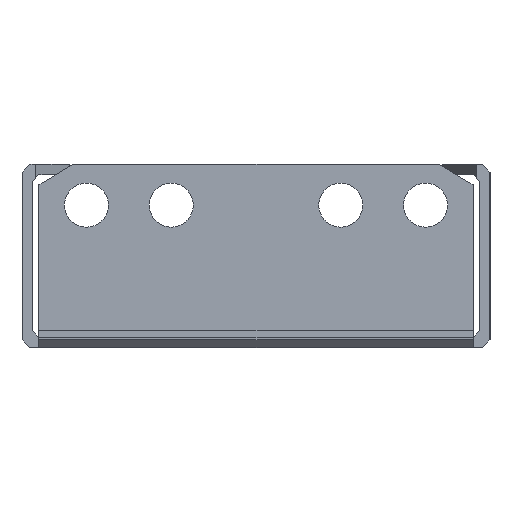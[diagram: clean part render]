
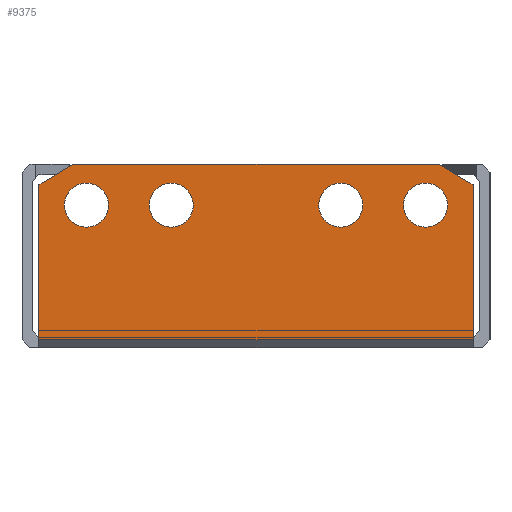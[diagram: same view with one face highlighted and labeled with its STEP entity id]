
A CAD part, left-side view. The second image highlights one B-rep face of the part: STEP entity #9375.
In plain terms, the highlighted planar face has unit normal (-1, 0, 0).
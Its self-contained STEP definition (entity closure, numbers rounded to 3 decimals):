
#407 = CARTESIAN_POINT ( 'NONE',  ( -353., -25., 19.5 ) ) ;
#898 = FACE_BOUND ( 'NONE', #11713, .T. ) ;
#1119 = FACE_BOUND ( 'NONE', #17989, .T. ) ;
#2275 = AXIS2_PLACEMENT_3D ( 'NONE', #24585, #34508, #21715 ) ;
#2515 = ORIENTED_EDGE ( 'NONE', *, *, #23099, .F. ) ;
#2850 = DIRECTION ( 'NONE',  ( -1., 0., 0. ) ) ;
#2935 = CARTESIAN_POINT ( 'NONE',  ( -353., 12.5, 19.5 ) ) ;
#3041 = AXIS2_PLACEMENT_3D ( 'NONE', #20262, #2850, #19590 ) ;
#3583 = LINE ( 'NONE', #30454, #37229 ) ;
#3789 = CIRCLE ( 'NONE', #14333, 3.25 ) ;
#4279 = VERTEX_POINT ( 'NONE', #26019 ) ;
#4734 = CARTESIAN_POINT ( 'NONE',  ( -353., 32., 0. ) ) ;
#5148 = AXIS2_PLACEMENT_3D ( 'NONE', #33051, #13241, #9492 ) ;
#5357 = CARTESIAN_POINT ( 'NONE',  ( -353., 25., 19.5 ) ) ;
#5899 = ORIENTED_EDGE ( 'NONE', *, *, #27916, .T. ) ;
#6363 = DIRECTION ( 'NONE',  ( 0., 0., 1. ) ) ;
#6462 = DIRECTION ( 'NONE',  ( -1., 0., 0. ) ) ;
#6780 = CARTESIAN_POINT ( 'NONE',  ( -353., 32., -0.369 ) ) ;
#7171 = EDGE_CURVE ( 'NONE', #17175, #26701, #41070, .T. ) ;
#7853 = CARTESIAN_POINT ( 'NONE',  ( -353., 27., 25.5 ) ) ;
#8129 = DIRECTION ( 'NONE',  ( 0., 0., 1. ) ) ;
#8603 = VECTOR ( 'NONE', #31109, 1000. ) ;
#8702 = LINE ( 'NONE', #4734, #35107 ) ;
#9023 = VERTEX_POINT ( 'NONE', #6780 ) ;
#9153 = CARTESIAN_POINT ( 'NONE',  ( -353., 32., 22.5 ) ) ;
#9375 = ADVANCED_FACE ( 'NONE', ( #1119, #28184, #898, #24681, #14339 ), #11694, .T. ) ;
#9379 = EDGE_CURVE ( 'NONE', #24345, #9023, #11238, .T. ) ;
#9492 = DIRECTION ( 'NONE',  ( 0., 0., 1. ) ) ;
#10405 = DIRECTION ( 'NONE',  ( 0., 0., 1. ) ) ;
#10760 = EDGE_CURVE ( 'NONE', #25412, #28289, #23214, .T. ) ;
#11238 = LINE ( 'NONE', #41686, #18258 ) ;
#11485 = EDGE_CURVE ( 'NONE', #15181, #21217, #21255, .T. ) ;
#11509 = DIRECTION ( 'NONE',  ( 0., 0., 1. ) ) ;
#11694 = PLANE ( 'NONE',  #22576 ) ;
#11713 = EDGE_LOOP ( 'NONE', ( #33346, #2515 ) ) ;
#11936 = VERTEX_POINT ( 'NONE', #17695 ) ;
#12611 = EDGE_CURVE ( 'NONE', #28289, #25412, #16424, .T. ) ;
#13241 = DIRECTION ( 'NONE',  ( -1., 0., 0. ) ) ;
#14138 = EDGE_CURVE ( 'NONE', #35637, #11936, #33880, .T. ) ;
#14333 = AXIS2_PLACEMENT_3D ( 'NONE', #2935, #6462, #23216 ) ;
#14339 = FACE_OUTER_BOUND ( 'NONE', #27967, .T. ) ;
#14567 = DIRECTION ( 'NONE',  ( -1., 0., 0. ) ) ;
#15181 = VERTEX_POINT ( 'NONE', #40128 ) ;
#15954 = LINE ( 'NONE', #35783, #28547 ) ;
#16166 = EDGE_LOOP ( 'NONE', ( #21552, #32083 ) ) ;
#16424 = CIRCLE ( 'NONE', #3041, 3.25 ) ;
#16445 = AXIS2_PLACEMENT_3D ( 'NONE', #407, #30352, #40747 ) ;
#16707 = EDGE_CURVE ( 'NONE', #24345, #36757, #3583, .T. ) ;
#17040 = ORIENTED_EDGE ( 'NONE', *, *, #16707, .T. ) ;
#17175 = VERTEX_POINT ( 'NONE', #7853 ) ;
#17265 = CARTESIAN_POINT ( 'NONE',  ( -353., 32., 22.5 ) ) ;
#17695 = CARTESIAN_POINT ( 'NONE',  ( -353., -25., 22.75 ) ) ;
#17909 = AXIS2_PLACEMENT_3D ( 'NONE', #21643, #27582, #11509 ) ;
#17989 = EDGE_LOOP ( 'NONE', ( #21337, #39385 ) ) ;
#18258 = VECTOR ( 'NONE', #38596, 1000. ) ;
#18757 = CARTESIAN_POINT ( 'NONE',  ( -353., -32., 22.5 ) ) ;
#19590 = DIRECTION ( 'NONE',  ( 0., 0., 1. ) ) ;
#19954 = CIRCLE ( 'NONE', #16445, 3.25 ) ;
#20262 = CARTESIAN_POINT ( 'NONE',  ( -353., 25., 19.5 ) ) ;
#21123 = CARTESIAN_POINT ( 'NONE',  ( -353., 25., 22.75 ) ) ;
#21188 = EDGE_CURVE ( 'NONE', #4279, #24491, #24138, .T. ) ;
#21217 = VERTEX_POINT ( 'NONE', #43472 ) ;
#21255 = CIRCLE ( 'NONE', #2275, 3.25 ) ;
#21337 = ORIENTED_EDGE ( 'NONE', *, *, #10760, .F. ) ;
#21552 = ORIENTED_EDGE ( 'NONE', *, *, #21188, .F. ) ;
#21643 = CARTESIAN_POINT ( 'NONE',  ( -353., -12.5, 19.5 ) ) ;
#21715 = DIRECTION ( 'NONE',  ( 0., 0., 1. ) ) ;
#21836 = AXIS2_PLACEMENT_3D ( 'NONE', #24644, #38108, #8129 ) ;
#22113 = DIRECTION ( 'NONE',  ( 0., 0.857, 0.514 ) ) ;
#22576 = AXIS2_PLACEMENT_3D ( 'NONE', #27975, #14567, #27760 ) ;
#23099 = EDGE_CURVE ( 'NONE', #11936, #35637, #19954, .T. ) ;
#23122 = DIRECTION ( 'NONE',  ( -1., 0., 0. ) ) ;
#23214 = CIRCLE ( 'NONE', #28964, 3.25 ) ;
#23216 = DIRECTION ( 'NONE',  ( 0., 0., 1. ) ) ;
#23519 = EDGE_CURVE ( 'NONE', #21217, #15181, #36927, .T. ) ;
#24138 = CIRCLE ( 'NONE', #5148, 3.25 ) ;
#24345 = VERTEX_POINT ( 'NONE', #37213 ) ;
#24491 = VERTEX_POINT ( 'NONE', #42507 ) ;
#24585 = CARTESIAN_POINT ( 'NONE',  ( -353., -12.5, 19.5 ) ) ;
#24644 = CARTESIAN_POINT ( 'NONE',  ( -353., -25., 19.5 ) ) ;
#24681 = FACE_BOUND ( 'NONE', #16166, .T. ) ;
#25412 = VERTEX_POINT ( 'NONE', #28540 ) ;
#26019 = CARTESIAN_POINT ( 'NONE',  ( -353., 12.5, 16.25 ) ) ;
#26701 = VERTEX_POINT ( 'NONE', #9153 ) ;
#26715 = CARTESIAN_POINT ( 'NONE',  ( -353., 27., 25.5 ) ) ;
#27571 = LINE ( 'NONE', #26715, #36973 ) ;
#27582 = DIRECTION ( 'NONE',  ( -1., 0., 0. ) ) ;
#27760 = DIRECTION ( 'NONE',  ( 0., 0., 1. ) ) ;
#27916 = EDGE_CURVE ( 'NONE', #36757, #37466, #15954, .T. ) ;
#27967 = EDGE_LOOP ( 'NONE', ( #35721, #31908, #17040, #5899, #31393, #38220 ) ) ;
#27975 = CARTESIAN_POINT ( 'NONE',  ( -353., 0., 0. ) ) ;
#28184 = FACE_BOUND ( 'NONE', #39592, .T. ) ;
#28289 = VERTEX_POINT ( 'NONE', #21123 ) ;
#28540 = CARTESIAN_POINT ( 'NONE',  ( -353., 25., 16.25 ) ) ;
#28547 = VECTOR ( 'NONE', #22113, 1000. ) ;
#28964 = AXIS2_PLACEMENT_3D ( 'NONE', #5357, #23122, #6363 ) ;
#30352 = DIRECTION ( 'NONE',  ( -1., 0., 0. ) ) ;
#30454 = CARTESIAN_POINT ( 'NONE',  ( -353., -32., 22.5 ) ) ;
#31109 = DIRECTION ( 'NONE',  ( 0., 0.857, -0.514 ) ) ;
#31393 = ORIENTED_EDGE ( 'NONE', *, *, #40643, .T. ) ;
#31908 = ORIENTED_EDGE ( 'NONE', *, *, #9379, .F. ) ;
#32083 = ORIENTED_EDGE ( 'NONE', *, *, #37682, .F. ) ;
#32807 = EDGE_CURVE ( 'NONE', #26701, #9023, #8702, .T. ) ;
#33051 = CARTESIAN_POINT ( 'NONE',  ( -353., 12.5, 19.5 ) ) ;
#33236 = ORIENTED_EDGE ( 'NONE', *, *, #23519, .F. ) ;
#33346 = ORIENTED_EDGE ( 'NONE', *, *, #14138, .F. ) ;
#33880 = CIRCLE ( 'NONE', #21836, 3.25 ) ;
#34508 = DIRECTION ( 'NONE',  ( -1., 0., 0. ) ) ;
#35107 = VECTOR ( 'NONE', #42031, 1000. ) ;
#35637 = VERTEX_POINT ( 'NONE', #36084 ) ;
#35721 = ORIENTED_EDGE ( 'NONE', *, *, #32807, .T. ) ;
#35783 = CARTESIAN_POINT ( 'NONE',  ( -353., -32., 22.5 ) ) ;
#36084 = CARTESIAN_POINT ( 'NONE',  ( -353., -25., 16.25 ) ) ;
#36757 = VERTEX_POINT ( 'NONE', #18757 ) ;
#36927 = CIRCLE ( 'NONE', #17909, 3.25 ) ;
#36973 = VECTOR ( 'NONE', #41056, 1000. ) ;
#37213 = CARTESIAN_POINT ( 'NONE',  ( -353., -32., -0.369 ) ) ;
#37229 = VECTOR ( 'NONE', #10405, 1000. ) ;
#37466 = VERTEX_POINT ( 'NONE', #42450 ) ;
#37682 = EDGE_CURVE ( 'NONE', #24491, #4279, #3789, .T. ) ;
#38108 = DIRECTION ( 'NONE',  ( -1., 0., 0. ) ) ;
#38220 = ORIENTED_EDGE ( 'NONE', *, *, #7171, .T. ) ;
#38596 = DIRECTION ( 'NONE',  ( 0., 1., 0. ) ) ;
#39385 = ORIENTED_EDGE ( 'NONE', *, *, #12611, .F. ) ;
#39592 = EDGE_LOOP ( 'NONE', ( #42224, #33236 ) ) ;
#40128 = CARTESIAN_POINT ( 'NONE',  ( -353., -12.5, 16.25 ) ) ;
#40643 = EDGE_CURVE ( 'NONE', #37466, #17175, #27571, .T. ) ;
#40747 = DIRECTION ( 'NONE',  ( 0., 0., 1. ) ) ;
#41056 = DIRECTION ( 'NONE',  ( 0., 1., 0. ) ) ;
#41070 = LINE ( 'NONE', #17265, #8603 ) ;
#41686 = CARTESIAN_POINT ( 'NONE',  ( -353., -35.536, -0.369 ) ) ;
#42031 = DIRECTION ( 'NONE',  ( 0., 0., -1. ) ) ;
#42224 = ORIENTED_EDGE ( 'NONE', *, *, #11485, .F. ) ;
#42450 = CARTESIAN_POINT ( 'NONE',  ( -353., -27., 25.5 ) ) ;
#42507 = CARTESIAN_POINT ( 'NONE',  ( -353., 12.5, 22.75 ) ) ;
#43472 = CARTESIAN_POINT ( 'NONE',  ( -353., -12.5, 22.75 ) ) ;
